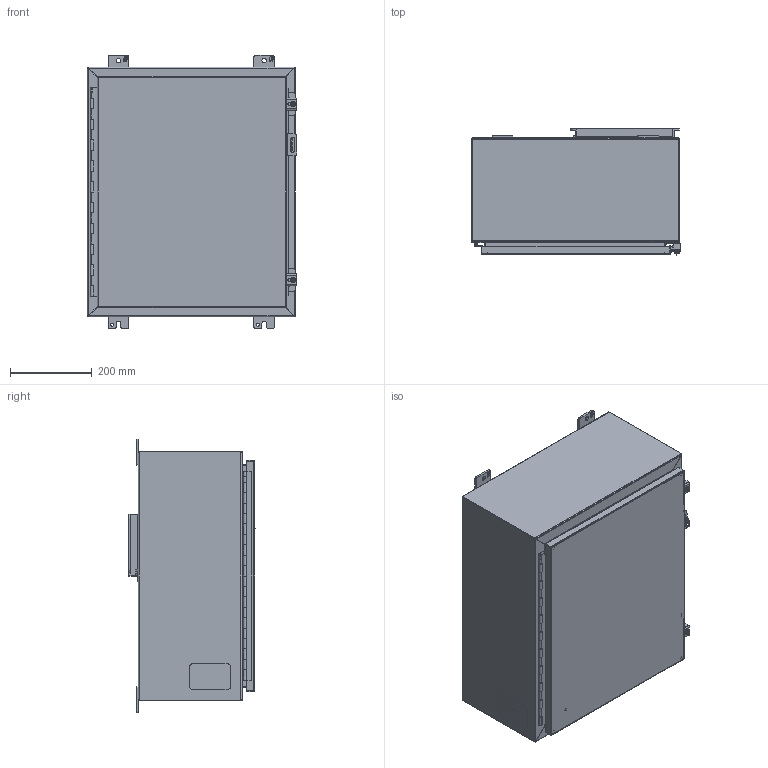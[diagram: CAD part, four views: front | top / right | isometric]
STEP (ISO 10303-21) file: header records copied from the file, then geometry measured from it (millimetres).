
FILE_DESCRIPTION(/* description */ ('Unknown'),/* implementation_level */ '2;1');
FILE_NAME(/* name */ '1418E10LP',/* time_stamp */ '2026-02-20T16:29:58-05:00',/* author */ ('Unknown'),/* organization */ ('Unknown'),/* preprocessor_version */ 'ST-DEVELOPER v18.104',/* originating_system */ 'Solid Edge',/* authorisation */ 'Unknown');
FILE_SCHEMA (('AUTOMOTIVE_DESIGN {1 0 10303 214 3 1 1}'));
Length unit declared in the file: millimetre
Products named in the file (30): 1418E10LP; STD26094; STD21878; COM42780; COM40153-1; HNG10620-20B; COM71780-10; COM40153-2; COM70219_oa_0; HNG10620-20C; PNT11078; COM48452; FET07710; AKT90223; SPR20265; SCC19011; WAF25035; COM42667; HNG10620-20P; BUL10020; QLB30109; PKT99; KIT90518; WAF25059; NTS166105; LAB30005; KIT90256; NTS165305; NTS16535
Assembly tree (40 placements, depth 3):
  1418E10LP
    STD26094  x4
    STD21878
    COM42780  x2
    COM40153-1
    HNG10620-20B
    COM71780-10
      COM40153-2
      COM70219_oa_0
      HNG10620-20C
      COM71780-10
      STD21878
      PNT11078
    COM48452
    FET07710  x4
    AKT90223  x2
      SPR20265
      SCC19011
      WAF25035
      COM42667
    HNG10620-20P
    BUL10020
    QLB30109
    PKT99
    KIT90518
      WAF25059
      NTS166105
      LAB30005
    KIT90256
      LAB30005
      NTS165305
      NTS16535
    PNT11078
Bounding box: 511.18 x 307.98 x 666.75 mm (x, y, z)
Volume: 2738391.3 mm3; surface area: 2934819.4 mm2
Topology: 34 solids, 35 shells, 1181 faces, 3003 edges, 1926 vertices
Faces by surface type: plane 786, cylinder 298, bspline 49, cone 26, torus 20, sphere 2
Full cylindrical faces by diameter (mm): 3.175 x1, 4.763 x1, 4.976 x1, 5.41 x2, 6.198 x2, 6.35 x3, 6.731 x2, 7.137 x2, 7.805 x1, 7.938 x4, 8.382 x4, 9.525 x4, 9.906 x2, 11.113 x4, 11.303 x1, 12.7 x2, 16.51 x4, 25.4 x1, 88.9 x1
Entity records: 29533 total; most frequent: CARTESIAN_POINT 8209, ORIENTED_EDGE 4256, DIRECTION 4023, EDGE_CURVE 2128, LINE 1449, VECTOR 1449, VERTEX_POINT 1369, AXIS2_PLACEMENT_3D 1287
